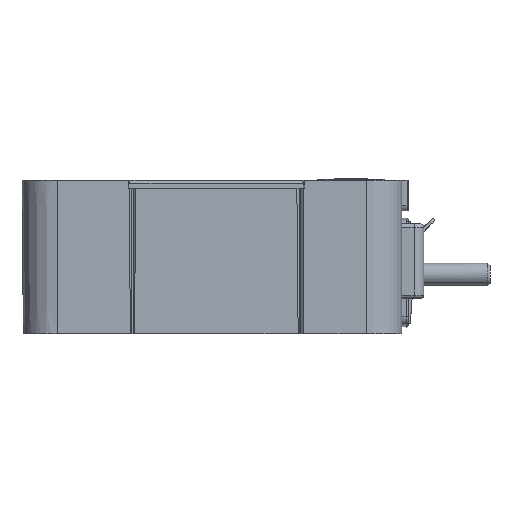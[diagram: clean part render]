
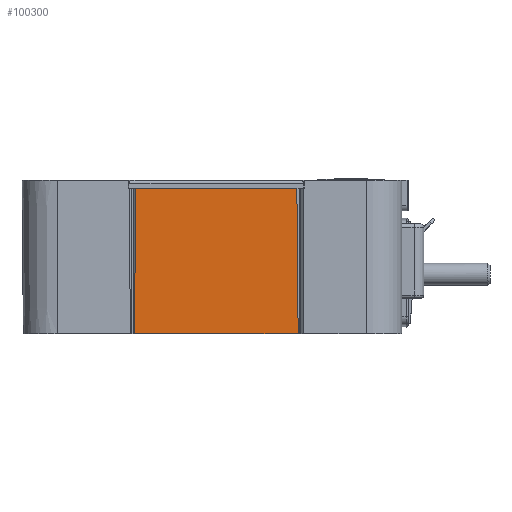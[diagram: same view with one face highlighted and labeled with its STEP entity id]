
A CAD part, left-side view. The second image highlights one B-rep face of the part: STEP entity #100300.
In plain terms, the highlighted planar face has unit normal (-1, 0, -0.009).
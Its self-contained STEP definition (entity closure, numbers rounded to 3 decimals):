
#93790=CARTESIAN_POINT('',(-42.629,12.505,
-6.3));
#93800=VERTEX_POINT('',#93790);
#93830=CARTESIAN_POINT('',(-42.629,22.38,
-6.3));
#93840=DIRECTION('',(0.,-1.,0.));
#93850=VECTOR('',#93840,1.);
#93860=LINE('',#93830,#93850);
#93870=CARTESIAN_POINT('',(-42.629,-24.571,
-6.3));
#93880=VERTEX_POINT('',#93870);
#93890=EDGE_CURVE('',#93800,#93880,#93860,.T.);
#98900=CARTESIAN_POINT('',(-42.917,12.217,
26.7));
#98910=VERTEX_POINT('',#98900);
#98940=CARTESIAN_POINT('',(-42.626,12.508,
-6.619));
#98950=DIRECTION('',(0.009,0.009,
-1.));
#98960=VECTOR('',#98950,1.);
#98970=LINE('',#98940,#98960);
#98980=EDGE_CURVE('',#98910,#93800,#98970,.T.);
#100070=CARTESIAN_POINT('',(-42.917,-40.033,
26.7));
#100080=DIRECTION('',(-1.,0.,
-0.009));
#100090=DIRECTION('',(0.,1.,0.));
#100100=AXIS2_PLACEMENT_3D('',#100070,#100080,#100090);
#100110=PLANE('',#100100);
#100120=CARTESIAN_POINT('',(-42.917,22.38,
26.7));
#100130=DIRECTION('',(0.,-1.,0.));
#100140=VECTOR('',#100130,1.);
#100150=LINE('',#100120,#100140);
#100160=CARTESIAN_POINT('',(-42.917,-24.283,
26.7));
#100170=VERTEX_POINT('',#100160);
#100180=EDGE_CURVE('',#98910,#100170,#100150,.T.);
#100190=ORIENTED_EDGE('',*,*,#100180,.F.);
#100200=CARTESIAN_POINT('',(-42.631,-24.569,
-6.123));
#100210=DIRECTION('',(0.009,-0.009,
-1.));
#100220=VECTOR('',#100210,1.);
#100230=LINE('',#100200,#100220);
#100240=EDGE_CURVE('',#100170,#93880,#100230,.T.);
#100250=ORIENTED_EDGE('',*,*,#100240,.F.);
#100260=ORIENTED_EDGE('',*,*,#93890,.T.);
#100270=ORIENTED_EDGE('',*,*,#98980,.T.);
#100280=EDGE_LOOP('',(#100270,#100260,#100250,#100190));
#100290=FACE_OUTER_BOUND('',#100280,.T.);
#100300=ADVANCED_FACE('',(#100290),#100110,.T.);
